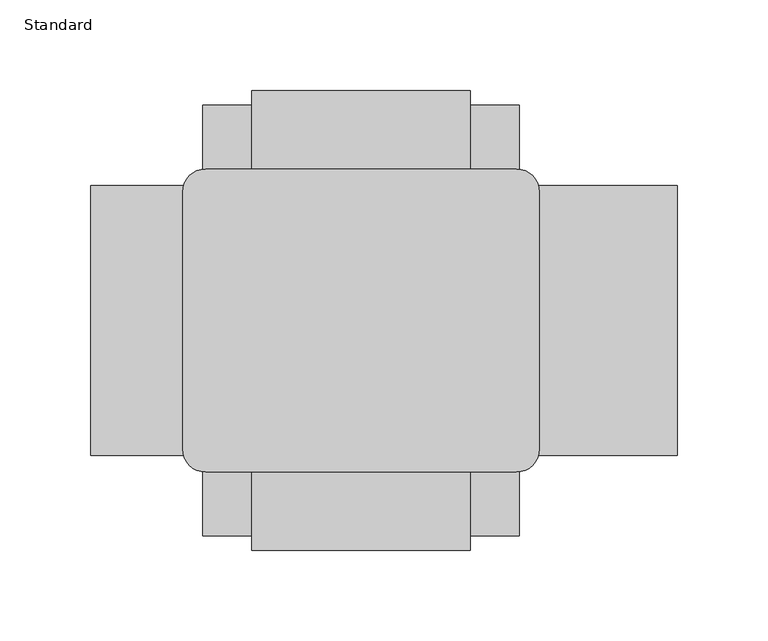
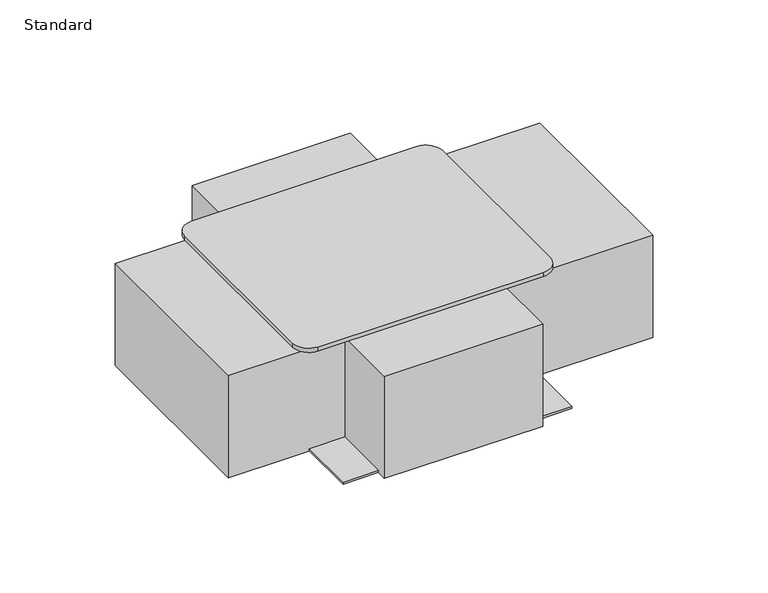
"""IFC4 building model written with IfcOpenShell, lengths in millimetres: proxy geometry, Floor_Box-Resource_Series-Wiremold-RFB4 : Standard."""

from ifc_helpers import new_model, si_unit, point, frame, frame_2d, origin, origin_with_axes, place, context, project, spatial, polyline, circle_curve, trimmed, segment, composite_curve, outline, extrude, faceted_brep, source, transform, mapped, element, save


def standard_85e2827f(model_context):
    return source(origin(), model_context, "Body", "SolidModel", [
        extrude(outline(composite_curve([segment(polyline([(-77.978, 70.7929938), (77.978, 70.7929938)]), True, "CONTINUOUS"), segment(trimmed(circle_curve(frame_2d((77.978, 63.1729938)), 7.62), [point((77.978, 70.7929938))], [point((85.598, 63.1729938))], False, "CARTESIAN"), True, "CONTINUOUS"), segment(polyline([(85.598, 63.1729938), (85.598, -63.280939)]), True, "CONTINUOUS"), segment(trimmed(circle_curve(frame_2d((77.978, -63.280939)), 7.62), [point((85.598, -63.280939))], [point((77.978, -70.900939))], False, "CARTESIAN"), True, "CONTINUOUS"), segment(polyline([(77.978, -70.900939), (-77.978, -70.900939)]), True, "CONTINUOUS"), segment(trimmed(circle_curve(frame_2d((-77.978, -63.280939)), 7.62), [point((-77.978, -70.900939))], [point((-85.598, -63.280939))], False, "CARTESIAN"), True, "CONTINUOUS"), segment(polyline([(-85.598, -63.280939), (-85.598, 63.1729938)]), True, "CONTINUOUS"), segment(trimmed(circle_curve(frame_2d((-77.978, 63.1729938)), 7.62), [point((-85.598, 63.1729938))], [point((-77.978, 70.7929938))], False, "CARTESIAN"), True, "CONTINUOUS")], self_intersect=False)), frame((0.0, 0.0, -15.7683463), z_axis=(0.0, 0.0, 1.0), x_axis=(1.0, 0.0, 0.0)), (0.0, 0.0, 1.0), 15.7683463),
        extrude(outline(composite_curve([segment(trimmed(circle_curve(frame_2d((85.6996, -71.002539)), 12.7254), [point((98.425, -71.002539))], [point((85.6996, -83.727939))], False, "CARTESIAN"), True, "CONTINUOUS"), segment(polyline([(85.6996, -83.727939), (-85.6996, -83.727939)]), True, "CONTINUOUS"), segment(trimmed(circle_curve(frame_2d((-85.6996, -71.002539)), 12.7254), [point((-85.6996, -83.727939))], [point((-98.425, -71.002539))], False, "CARTESIAN"), True, "CONTINUOUS"), segment(polyline([(-98.425, -71.002539), (-98.425, 70.8945938)]), True, "CONTINUOUS"), segment(trimmed(circle_curve(frame_2d((-85.6996, 70.8945938)), 12.7254), [point((-98.425, 70.8945938))], [point((-85.6996, 83.6199938))], False, "CARTESIAN"), True, "CONTINUOUS"), segment(polyline([(-85.6996, 83.6199938), (85.6996, 83.6199938)]), True, "CONTINUOUS"), segment(trimmed(circle_curve(frame_2d((85.6996, 70.8945938)), 12.7254), [point((85.6996, 83.6199938))], [point((98.425, 70.8945938))], False, "CARTESIAN"), True, "CONTINUOUS"), segment(polyline([(98.425, 70.8945938), (98.425, -71.002539)]), True, "CONTINUOUS")], self_intersect=False)), origin_with_axes(), (0.0, 0.0, 1.0), 3.3062661),
        faceted_brep([(62.2452126, -53.6439154, -72.4205955), (87.3125, -53.6439154, -72.4205955), (87.3125, -53.6439154, -28.9865955), (69.8009188, -53.6439154, -28.9865955), (87.3125, 53.5359702, -72.4205955), (62.2452126, 53.5359702, -72.4205955), (69.8009188, 53.5359702, -28.9865955), (87.3125, 53.5359702, -28.9865955), (69.8009188, -41.9989047, -28.9865955), (70.9099173, -41.9989047, -22.6115148), (70.9099173, 41.9989047, -22.6115148), (69.8009188, 41.9989047, -28.9865955), (87.3125, 41.9989047, -28.9865955), (87.3125, 41.9989047, -22.6115148), (87.3125, -41.9989047, -22.6115148), (87.3125, -41.9989047, -28.9865955)], [[[0, 1, 2, 3]], [[4, 5, 6, 7]], [[5, 0, 3, 8, 9, 10, 11, 6]], [[1, 0, 5, 4]], [[1, 4, 7, 12, 13, 14, 15, 2]], [[10, 9, 14, 13]], [[12, 11, 10, 13]], [[11, 12, 7, 6]], [[15, 8, 3, 2]], [[8, 15, 14, 9]]]),
        faceted_brep([(-87.3125, -53.6439154, -72.4205955), (-62.2452126, -53.6439154, -72.4205955), (-69.8009188, -53.6439154, -28.9865955), (-87.3125, -53.6439154, -28.9865955), (-62.2452126, 53.5359702, -72.4205955), (-87.3125, 53.5359702, -72.4205955), (-87.3125, 53.5359702, -28.9865955), (-69.8009188, 53.5359702, -28.9865955), (-70.9099173, -41.9989047, -22.6115148), (-70.9099173, 41.9989047, -22.6115148), (-87.3125, 41.9989047, -22.6115148), (-87.3125, -41.9989047, -22.6115148), (-87.3125, -41.9989047, -28.9865955), (-87.3125, 41.9989047, -28.9865955), (-69.8009188, 41.9989047, -28.9865955), (-69.8009188, -41.9989047, -28.9865955)], [[[0, 1, 2, 3]], [[4, 5, 6, 7]], [[8, 9, 10, 11]], [[5, 0, 3, 12, 11, 10, 13, 6]], [[1, 0, 5, 4]], [[1, 4, 7, 14, 9, 8, 15, 2]], [[14, 13, 10, 9]], [[13, 14, 7, 6]], [[15, 12, 3, 2]], [[12, 15, 8, 11]]]),
        extrude(outline(polyline([(-60.325, 119.0625), (-60.325, 74.6125), (-87.3125, 74.6125), (-87.3125, 119.0625), (-60.325, 119.0625)])), frame((0.0, 0.0, -85.725), z_axis=(0.0, 0.0, 1.0), x_axis=(1.0, 0.0, 0.0)), (0.0, 0.0, 1.0), 1.778),
        extrude(outline(polyline([(60.325, 119.0625), (87.3125, 119.0625), (87.3125, 74.6125), (60.325, 74.6125), (60.325, 119.0625)])), frame((0.0, 0.0, -85.725), z_axis=(0.0, 0.0, 1.0), x_axis=(1.0, 0.0, 0.0)), (0.0, 0.0, 1.0), 1.778),
        extrude(outline(polyline([(60.325, -119.0625), (60.325, -74.6125), (87.3125, -74.6125), (87.3125, -119.0625), (60.325, -119.0625)])), frame((0.0, 0.0, -85.725), z_axis=(0.0, 0.0, 1.0), x_axis=(1.0, 0.0, 0.0)), (0.0, 0.0, 1.0), 1.778),
        extrude(outline(polyline([(-60.325, -119.0625), (-87.3125, -119.0625), (-87.3125, -74.6125), (-60.325, -74.6125), (-60.325, -119.0625)])), frame((0.0, 0.0, -85.725), z_axis=(0.0, 0.0, 1.0), x_axis=(1.0, 0.0, 0.0)), (0.0, 0.0, 1.0), 1.778),
        faceted_brep([(60.325, 127.0, -3.175), (-60.325, 127.0, -3.175), (-60.325, 74.6125, -3.175), (-149.225, 74.6125, -3.175), (-149.225, -74.6125, -3.175), (-60.325, -74.6125, -3.175), (-60.325, -127.0, -3.175), (60.325, -127.0, -3.175), (60.325, -74.6125, -3.175), (174.625, -74.6125, -3.175), (174.625, 74.6125, -3.175), (60.325, 74.6125, -3.175), (-87.3125, 71.4375, -3.175), (87.3125, 71.4375, -3.175), (87.3125, -71.4375, -3.175), (-87.3125, -71.4375, -3.175), (60.325, 127.0, -85.725), (60.325, 74.6125, -85.725), (174.625, 74.6125, -85.725), (174.625, -74.6125, -85.725), (60.325, -74.6125, -85.725), (60.325, -127.0, -85.725), (-60.325, -127.0, -85.725), (-60.325, -74.6125, -85.725), (-149.225, -74.6125, -85.725), (-149.225, 74.6125, -85.725), (-60.325, 74.6125, -85.725), (-60.325, 127.0, -85.725), (87.3125, 71.4375, -85.725), (-87.3125, 71.4375, -85.725), (-87.3125, -71.4375, -85.725), (87.3125, -71.4375, -85.725), (87.3125, -71.4375, -3.175), (87.3125, 71.4375, -3.175), (-87.3125, -71.4375, -3.175), (-87.3125, 71.4375, -3.175), (87.3125, 71.4375, 0.0), (-87.3125, 71.4375, 0.0), (-87.3125, -71.4375, 0.0), (87.3125, -71.4375, 0.0), (-85.8151157, -69.9401157, 0.0), (-85.8151157, 69.9401157, 0.0), (85.8151157, 69.9401157, 0.0), (85.8151157, -69.9401157, 0.0), (-85.8151157, -69.9401157, -3.175), (85.8151157, -69.9401157, -3.175), (85.8151157, 69.9401157, -3.175), (-85.8151157, 69.9401157, -3.175)], [[[0, 1, 2, 3, 4, 5, 6, 7, 8, 9, 10, 11], [12, 13, 14, 15]], [[16, 17, 18, 19, 20, 21, 22, 23, 24, 25, 26, 27], [28, 29, 30, 31]], [[1, 0, 16, 27]], [[2, 1, 27, 26]], [[3, 2, 26, 25]], [[4, 3, 25, 24]], [[5, 4, 24, 23]], [[6, 5, 23, 22]], [[7, 6, 22, 21]], [[8, 7, 21, 20]], [[9, 8, 20, 19]], [[10, 9, 19, 18]], [[11, 10, 18, 17]], [[0, 11, 17, 16]], [[28, 31, 32, 33]], [[31, 30, 34, 32]], [[30, 29, 35, 34]], [[29, 28, 33, 35]], [[36, 37, 38, 39], [40, 41, 42, 43]], [[33, 32, 34, 35], [44, 45, 46, 47]], [[37, 36, 13, 12]], [[38, 37, 12, 15]], [[39, 38, 15, 14]], [[36, 39, 14, 13]], [[41, 40, 44, 47]], [[42, 41, 47, 46]], [[43, 42, 46, 45]], [[40, 43, 45, 44]]]),
        extrude(outline(polyline([(87.3125, 71.4375), (87.3125, -71.4375), (-87.3125, -71.4375), (-87.3125, 71.4375), (87.3125, 71.4375)])), frame((0.0, 0.0, -85.725), z_axis=(0.0, 0.0, 1.0), x_axis=(1.0, 0.0, 0.0)), (0.0, 0.0, 1.0), 11.9657573),
    ])


if __name__ == "__main__":
    model = new_model("IFC4")
    model_context = context("Model", 3, world=origin())
    ifc_project = project(units=[si_unit("LENGTHUNIT", "METRE", prefix="MILLI")], contexts=[model_context])
    site = spatial("IfcSite", under=ifc_project)
    building = spatial("IfcBuilding", under=site)
    placement = place(None, origin())
    standard_shape = standard_85e2827f(model_context)
    element("IfcBuildingElementProxy", 1, Name="Floor_Box-Resource_Series-Wiremold-RFB4 : Standard", ObjectType="Floor_Box-Resource_Series-Wiremold-RFB4 : Standard", at=placement, inside=building, context=model_context, shape_type="MappedRepresentation", body=[
        mapped(standard_shape, transform((0.0, 0.0, 0.0), x_axis=(1.0, 0.0, 0.0), y_axis=(0.0, 1.0, 0.0), z_axis=(0.0, 0.0, 1.0))),
    ])
    save(model, "model.ifc")
